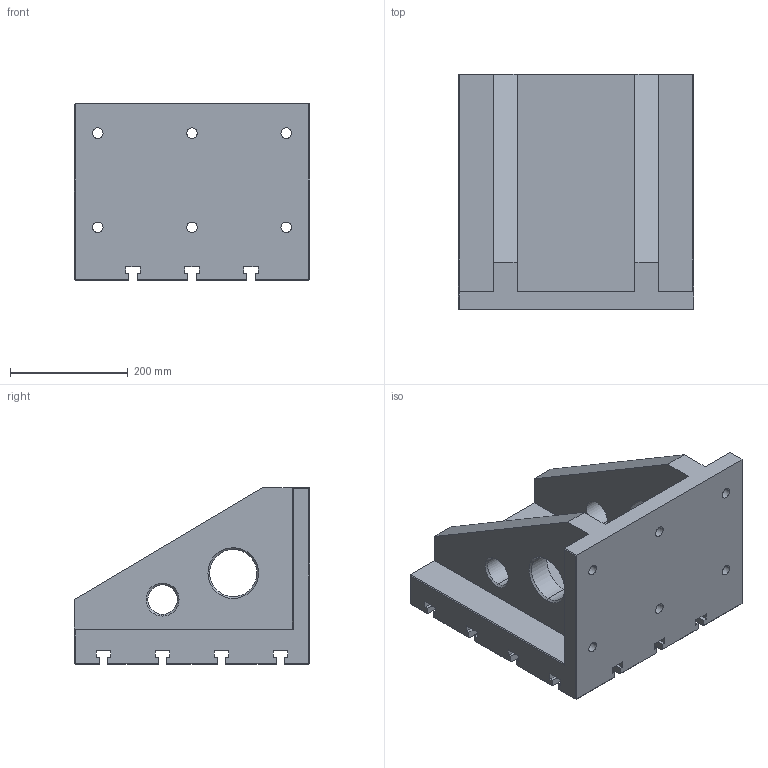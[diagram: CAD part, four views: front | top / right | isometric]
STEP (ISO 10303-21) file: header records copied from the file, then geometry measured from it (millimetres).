
FILE_DESCRIPTION((''),'2;1');
FILE_NAME('FG_WH_ANGPL_ANT14NP001','2026-05-22T11:51:44',('Admin'),(''),'CREO PARAMETRIC BY PTC INC, 2025010','CREO PARAMETRIC BY PTC INC, 2025010','');
FILE_SCHEMA(('CONFIG_CONTROL_DESIGN'));
Length unit declared in the file: millimetre
Products named in the file (1): FG_WH_ANGPL_ANT14NP001
Bounding box: 400 x 400 x 300 mm (x, y, z)
Volume: 15401450.1 mm3; surface area: 1005811.5 mm2
Topology: 1 solids, 1 shells, 255 faces, 691 edges, 456 vertices
Faces by surface type: plane 215, cylinder 32, cone 8
Entity records: 7983 total; most frequent: CARTESIAN_POINT 1402, ORIENTED_EDGE 1382, DIRECTION 1273, EDGE_CURVE 691, VECTOR 619, LINE 619, VERTEX_POINT 456, AXIS2_PLACEMENT_3D 327
